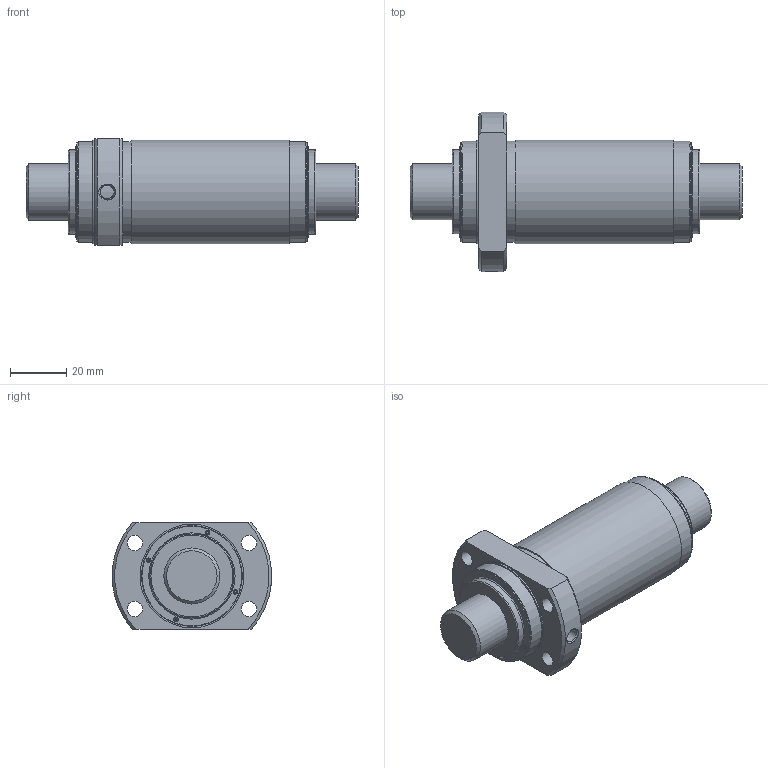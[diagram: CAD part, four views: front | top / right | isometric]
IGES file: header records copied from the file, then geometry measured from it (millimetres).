
Start section: Data from Parasolid IGES Translator 26.0.171, Copyright(c) 2006 Siemens PLM Software. All Rights Reserved.
Global section: file name: WTF2040-3ZZ+118.5LC7T_000_rev.igs; native system: By Siemens PLM Incorporated; preprocessor: XPlus GENERIC/IGES 26.0.171; author: Noname; organization: Noname; date: 20250611.063949; units: millimetre
Bounding box: 118.5 x 56.91 x 38 mm (x, y, z)
Surface area: 28230.7 mm2 (no closed solid volume)
Topology: 0 solids, 0 shells, 212 faces, 1078 edges, 1006 vertices
Faces by surface type: extrusion 125, revolution 87
